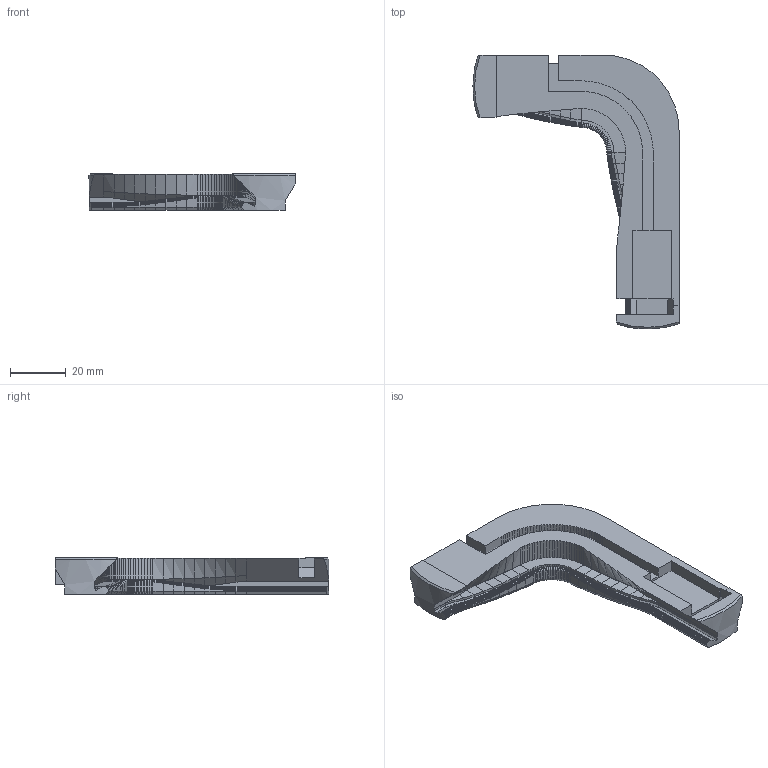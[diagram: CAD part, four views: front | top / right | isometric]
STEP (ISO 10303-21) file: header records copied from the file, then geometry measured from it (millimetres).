
FILE_DESCRIPTION(('Open CASCADE Model'),'2;1');
FILE_NAME('Open CASCADE Shape Model','2026-10-27T10:19:03',('Author'),( 'Open CASCADE'),'Open CASCADE STEP processor 8.0','build123d', 'Unknown');
FILE_SCHEMA(('AUTOMOTIVE_DESIGN { 1 0 10303 214 1 1 1 1 }'));
Products named in the file (1): SOLID
Bounding box: 74.1 x 98.5 x 13.25 mm (x, y, z)
Volume: 30124.8 mm3; surface area: 12155.4 mm2
Topology: 1 solids, 1 shells, 1518 faces, 3297 edges, 1783 vertices
Faces by surface type: bspline 1208, plane 301, cylinder 6, cone 3
Full cylindrical faces by diameter (mm): 4 x2
Entity records: 79869 total; most frequent: CARTESIAN_POINT 21215, DIRECTION 7455, LINE 6604, VECTOR 6604, ORIENTED_EDGE 6594, PCURVE 6594, DEFINITIONAL_REPRESENTATION 6594, EDGE_CURVE 3297
